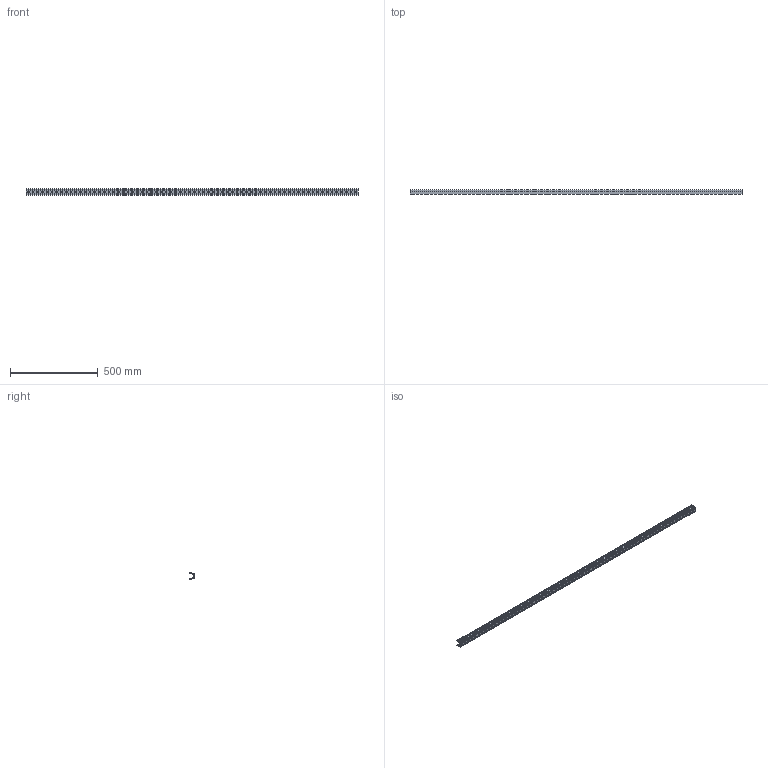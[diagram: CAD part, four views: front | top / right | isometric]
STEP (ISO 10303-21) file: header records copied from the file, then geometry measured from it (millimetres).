
FILE_DESCRIPTION( ( 'STEP AP203' ), '1' );
FILE_NAME( 'C:/Temp/Ganter_Step_05_03_2020/data/3_8/gn_646_3/Carrier profile GN 646.3-1890-B (15).stp', '2020-03-12T15:24:28', ( 'License CC BY-ND 4.0' ), ( 'CADENAS' ), ' ', 'PARTsolutions', ' ' );
FILE_SCHEMA( ( 'CONFIG_CONTROL_DESIGN' ) );
Length unit declared in the file: millimetre
Products named in the file (1): _Carrier profile GN 646.3-1890-B (15)
Bounding box: 1890 x 26.5 x 36 mm (x, y, z)
Volume: 311646.4 mm3; surface area: 393806.9 mm2
Topology: 1 solids, 1 shells, 392 faces, 1170 edges, 780 vertices
Faces by surface type: plane 210, cylinder 182
Entity records: 13582 total; most frequent: CARTESIAN_POINT 2343, ORIENTED_EDGE 2340, DIRECTION 2320, EDGE_CURVE 1170, LINE 806, VECTOR 806, VERTEX_POINT 780, AXIS2_PLACEMENT_3D 757
